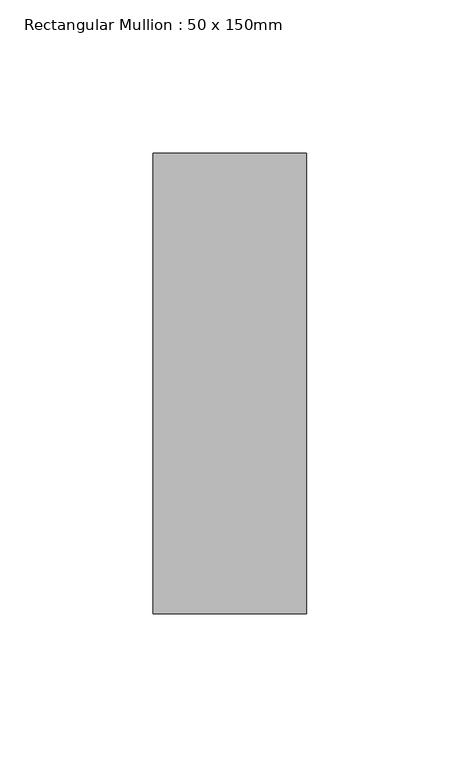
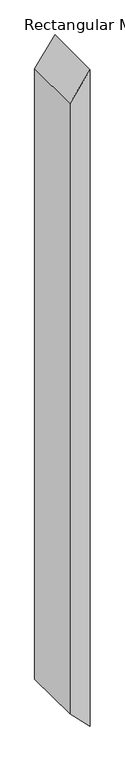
"""IFC4 building model written with IfcOpenShell, lengths in millimetres: member geometry, Rectangular Mullion : 50 x 150mm."""

from ifc_helpers import new_model, si_unit, frame, origin, place, context, project, spatial, polyline, outline, extrude, source, transform, mapped, element, save


def rectangular_mullion_50_x_150mm_c1b074c6(model_context):
    return source(origin(), model_context, "Body", "SweptSolid", [
        extrude(outline(polyline([(0.0, 0.0), (-70.4978473, -50.0), (-1661.8882818, -50.0), (-1711.8882818, 0.0), (0.0, 0.0)])), frame((0.0, -75.0, 0.0), z_axis=(0.0, 1.0, 0.0), x_axis=(0.0, 0.0, 1.0)), (0.0, 0.0, 1.0), 150.0),
    ])


if __name__ == "__main__":
    model = new_model("IFC4")
    model_context = context("Model", 3, world=origin())
    ifc_project = project(units=[si_unit("LENGTHUNIT", "METRE", prefix="MILLI")], contexts=[model_context])
    site = spatial("IfcSite", under=ifc_project)
    building = spatial("IfcBuilding", under=site)
    placement = place(None, origin())
    rectangular_mullion_50_x_150mm_shape = rectangular_mullion_50_x_150mm_c1b074c6(model_context)
    element("IfcMember", 1, ObjectType="Rectangular Mullion : 50 x 150mm", at=placement, inside=building, context=model_context, shape_type="MappedRepresentation", body=[
        mapped(rectangular_mullion_50_x_150mm_shape, transform((0.0, 0.0, 0.0), x_axis=(1.0, 0.0, 0.0), y_axis=(0.0, 1.0, 0.0), z_axis=(0.0, 0.0, 1.0))),
    ])
    save(model, "model.ifc")
